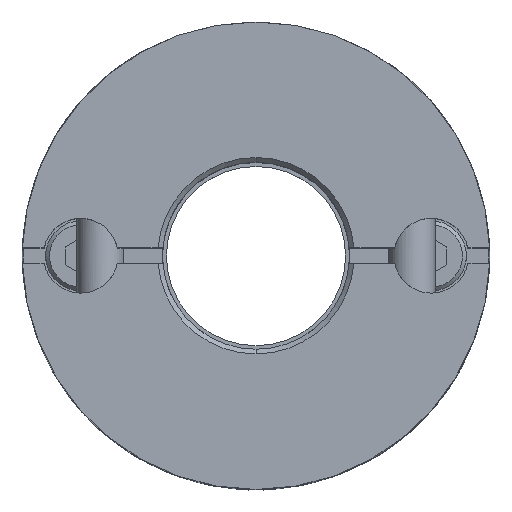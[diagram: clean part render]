
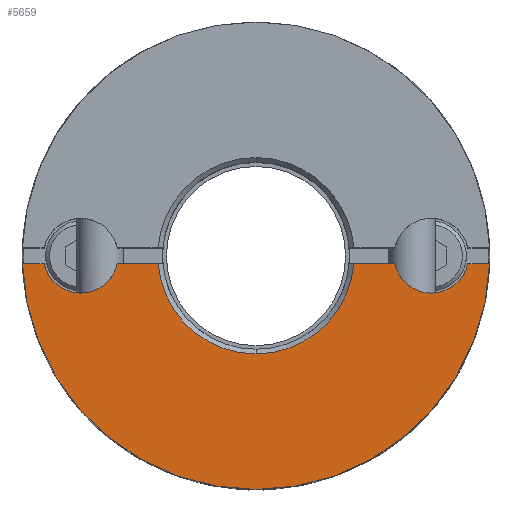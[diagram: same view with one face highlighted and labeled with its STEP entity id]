
A CAD part, top view. The second image highlights one B-rep face of the part: STEP entity #5659.
In plain terms, the highlighted planar face has unit normal (0, 0, 1).
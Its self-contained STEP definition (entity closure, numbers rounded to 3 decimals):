
#2176=CARTESIAN_POINT('',(0.,-15.0,11.8));
#2177=VERTEX_POINT('',#2176);
#2184=CARTESIAN_POINT('',(-14.992,-0.5,11.8));
#2185=VERTEX_POINT('',#2184);
#2186=CARTESIAN_POINT('',(0.0,0.0,11.8));
#2187=DIRECTION('',(0.0,0.0,-1.0));
#2188=DIRECTION('',(0.0,1.0,0.0));
#2189=AXIS2_PLACEMENT_3D('',#2186,#2187,#2188);
#2190=CIRCLE('',#2189,15.0);
#2191=EDGE_CURVE('',#2177,#2185,#2190,.T.);
#2582=CARTESIAN_POINT('',(0.,-6.3,11.8));
#2583=VERTEX_POINT('',#2582);
#2591=CARTESIAN_POINT('',(-6.28,-0.5,11.8));
#2592=VERTEX_POINT('',#2591);
#2606=CARTESIAN_POINT('',(0.0,0.0,11.8));
#2607=DIRECTION('',(0.0,0.0,1.0));
#2608=DIRECTION('',(0.0,-1.0,0.0));
#2609=AXIS2_PLACEMENT_3D('',#2606,#2607,#2608);
#2610=CIRCLE('',#2609,6.3);
#2611=EDGE_CURVE('',#2592,#2583,#2610,.T.);
#2984=CARTESIAN_POINT('',(-11.25,-2.4,11.8));
#2985=VERTEX_POINT('',#2984);
#2992=CARTESIAN_POINT('',(-8.903,-0.5,11.8));
#2993=VERTEX_POINT('',#2992);
#2994=CARTESIAN_POINT('',(-11.25,0.,11.8));
#2995=DIRECTION('',(0.0,0.0,-1.0));
#2996=DIRECTION('',(0.0,1.0,0.0));
#2997=AXIS2_PLACEMENT_3D('',#2994,#2995,#2996);
#2998=CIRCLE('',#2997,2.4);
#2999=EDGE_CURVE('',#2993,#2985,#2998,.T.);
#3059=CARTESIAN_POINT('',(-13.597,-0.5,11.8));
#3060=VERTEX_POINT('',#3059);
#3067=CARTESIAN_POINT('',(-11.25,0.,11.8));
#3068=DIRECTION('',(0.0,0.0,-1.0));
#3069=DIRECTION('',(0.0,1.0,0.0));
#3070=AXIS2_PLACEMENT_3D('',#3067,#3068,#3069);
#3071=CIRCLE('',#3070,2.4);
#3072=EDGE_CURVE('',#2985,#3060,#3071,.T.);
#3277=CARTESIAN_POINT('',(11.25,-2.4,11.8));
#3278=VERTEX_POINT('',#3277);
#3310=CARTESIAN_POINT('',(8.903,-0.5,11.8));
#3311=VERTEX_POINT('',#3310);
#3318=CARTESIAN_POINT('',(11.25,0.,11.8));
#3319=DIRECTION('',(0.0,0.0,-1.0));
#3320=DIRECTION('',(0.0,1.0,0.0));
#3321=AXIS2_PLACEMENT_3D('',#3318,#3319,#3320);
#3322=CIRCLE('',#3321,2.4);
#3323=EDGE_CURVE('',#3278,#3311,#3322,.T.);
#4401=CARTESIAN_POINT('',(13.597,-0.5,11.8));
#4402=VERTEX_POINT('',#4401);
#4403=CARTESIAN_POINT('',(11.25,0.,11.8));
#4404=DIRECTION('',(0.0,0.0,-1.0));
#4405=DIRECTION('',(0.0,1.0,0.0));
#4406=AXIS2_PLACEMENT_3D('',#4403,#4404,#4405);
#4407=CIRCLE('',#4406,2.4);
#4408=EDGE_CURVE('',#4402,#3278,#4407,.T.);
#4694=CARTESIAN_POINT('',(-6.28,-0.5,11.8));
#4695=DIRECTION('',(-1.0,0.0,0.0));
#4696=VECTOR('',#4695,2.623);
#4697=LINE('',#4694,#4696);
#4698=EDGE_CURVE('',#2592,#2993,#4697,.T.);
#4811=CARTESIAN_POINT('',(6.28,-0.5,11.8));
#4812=VERTEX_POINT('',#4811);
#4826=CARTESIAN_POINT('',(8.903,-0.5,11.8));
#4827=DIRECTION('',(-1.0,0.0,0.0));
#4828=VECTOR('',#4827,2.623);
#4829=LINE('',#4826,#4828);
#4830=EDGE_CURVE('',#3311,#4812,#4829,.T.);
#5406=CARTESIAN_POINT('',(14.992,-0.5,11.8));
#5407=VERTEX_POINT('',#5406);
#5408=CARTESIAN_POINT('',(14.992,-0.5,11.8));
#5409=DIRECTION('',(-1.0,0.0,0.0));
#5410=VECTOR('',#5409,1.394);
#5411=LINE('',#5408,#5410);
#5412=EDGE_CURVE('',#5407,#4402,#5411,.T.);
#5526=CARTESIAN_POINT('',(-13.597,-0.5,11.8));
#5527=DIRECTION('',(-1.0,0.0,0.0));
#5528=VECTOR('',#5527,1.394);
#5529=LINE('',#5526,#5528);
#5530=EDGE_CURVE('',#3060,#2185,#5529,.T.);
#5628=CARTESIAN_POINT('',(0.,1.364,11.8));
#5629=DIRECTION('',(0.0,0.0,1.0));
#5630=DIRECTION('',(0.0,1.0,0.0));
#5631=AXIS2_PLACEMENT_3D('',#5628,#5629,#5630);
#5632=PLANE('',#5631);
#5633=ORIENTED_EDGE('',*,*,#4408,.T.);
#5634=ORIENTED_EDGE('',*,*,#3323,.T.);
#5635=ORIENTED_EDGE('',*,*,#4830,.T.);
#5636=CARTESIAN_POINT('',(0.0,0.0,11.8));
#5637=DIRECTION('',(0.0,0.0,1.0));
#5638=DIRECTION('',(0.0,-1.0,0.0));
#5639=AXIS2_PLACEMENT_3D('',#5636,#5637,#5638);
#5640=CIRCLE('',#5639,6.3);
#5641=EDGE_CURVE('',#2583,#4812,#5640,.T.);
#5642=ORIENTED_EDGE('',*,*,#5641,.F.);
#5643=ORIENTED_EDGE('',*,*,#2611,.F.);
#5644=ORIENTED_EDGE('',*,*,#4698,.T.);
#5645=ORIENTED_EDGE('',*,*,#2999,.T.);
#5646=ORIENTED_EDGE('',*,*,#3072,.T.);
#5647=ORIENTED_EDGE('',*,*,#5530,.T.);
#5648=ORIENTED_EDGE('',*,*,#2191,.F.);
#5649=CARTESIAN_POINT('',(0.0,0.0,11.8));
#5650=DIRECTION('',(0.0,0.0,-1.0));
#5651=DIRECTION('',(0.0,1.0,0.0));
#5652=AXIS2_PLACEMENT_3D('',#5649,#5650,#5651);
#5653=CIRCLE('',#5652,15.0);
#5654=EDGE_CURVE('',#5407,#2177,#5653,.T.);
#5655=ORIENTED_EDGE('',*,*,#5654,.F.);
#5656=ORIENTED_EDGE('',*,*,#5412,.T.);
#5657=EDGE_LOOP('',(#5633,#5634,#5635,#5642,#5643,#5644,#5645,#5646,#5647,#5648,#5655,#5656));
#5658=FACE_OUTER_BOUND('',#5657,.T.);
#5659=ADVANCED_FACE('',(#5658),#5632,.T.);
